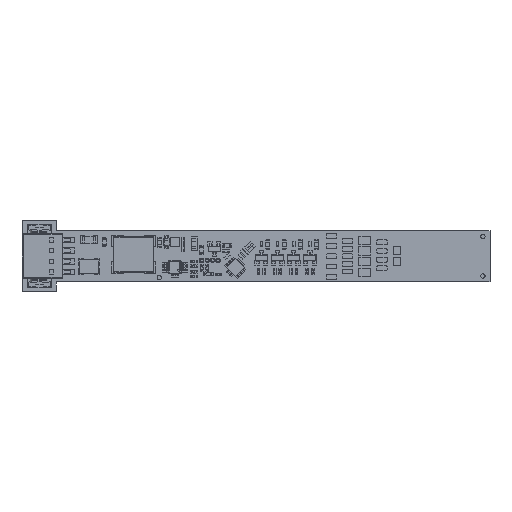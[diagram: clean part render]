
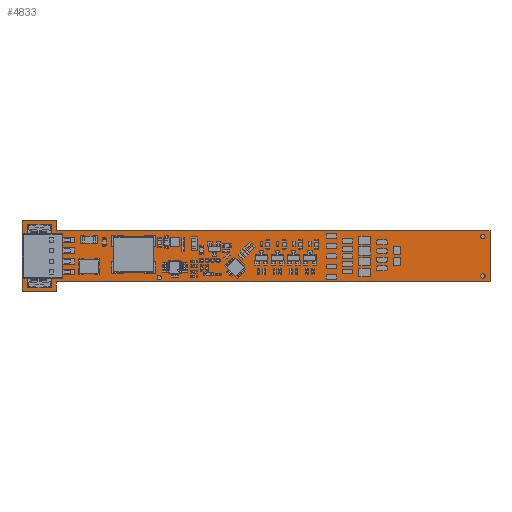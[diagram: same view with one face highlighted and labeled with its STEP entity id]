
A CAD part, top view. The second image highlights one B-rep face of the part: STEP entity #4833.
In plain terms, the highlighted planar face has unit normal (0, 0, 1).
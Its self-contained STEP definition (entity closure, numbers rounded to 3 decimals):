
#4833=ADVANCED_FACE('',(#12184,#12185,#12186,#12187,#12188),#12189,.T.);
#12184=FACE_OUTER_BOUND('',#22643,.T.);
#12185=FACE_BOUND('',#22644,.T.);
#12186=FACE_BOUND('',#22645,.T.);
#12187=FACE_BOUND('',#22646,.T.);
#12188=FACE_BOUND('',#22647,.T.);
#12189=PLANE('',#22648);
#22643=EDGE_LOOP('',(#46441,#46442,#46443,#46444,#46445,#46446,#46447,#46448));
#22644=EDGE_LOOP('',(#46449,#46450));
#22645=EDGE_LOOP('',(#46451,#46452));
#22646=EDGE_LOOP('',(#46453,#46454));
#22647=EDGE_LOOP('',(#46455,#46456));
#22648=AXIS2_PLACEMENT_3D('',#46457,#46458,#46459);
#46441=ORIENTED_EDGE('',*,*,#76294,.T.);
#46442=ORIENTED_EDGE('',*,*,#76295,.T.);
#46443=ORIENTED_EDGE('',*,*,#76296,.T.);
#46444=ORIENTED_EDGE('',*,*,#76297,.T.);
#46445=ORIENTED_EDGE('',*,*,#76298,.T.);
#46446=ORIENTED_EDGE('',*,*,#76299,.T.);
#46447=ORIENTED_EDGE('',*,*,#76300,.T.);
#46448=ORIENTED_EDGE('',*,*,#76301,.T.);
#46449=ORIENTED_EDGE('',*,*,#76263,.T.);
#46450=ORIENTED_EDGE('',*,*,#76292,.T.);
#46451=ORIENTED_EDGE('',*,*,#76268,.T.);
#46452=ORIENTED_EDGE('',*,*,#76289,.T.);
#46453=ORIENTED_EDGE('',*,*,#76273,.T.);
#46454=ORIENTED_EDGE('',*,*,#76286,.T.);
#46455=ORIENTED_EDGE('',*,*,#76278,.T.);
#46456=ORIENTED_EDGE('',*,*,#76283,.T.);
#46457=CARTESIAN_POINT('',(165.162,79.826,-0.035));
#46458=DIRECTION('',(0.0,0.0,1.0));
#46459=DIRECTION('',(1.0,0.0,0.0));
#76263=EDGE_CURVE('',#89263,#89260,#89264,.T.);
#76268=EDGE_CURVE('',#89272,#89269,#89273,.T.);
#76273=EDGE_CURVE('',#89281,#89278,#89282,.T.);
#76278=EDGE_CURVE('',#89290,#89287,#89291,.T.);
#76283=EDGE_CURVE('',#89287,#89290,#89297,.T.);
#76286=EDGE_CURVE('',#89278,#89281,#89300,.T.);
#76289=EDGE_CURVE('',#89269,#89272,#89303,.T.);
#76292=EDGE_CURVE('',#89260,#89263,#89306,.T.);
#76294=EDGE_CURVE('',#89308,#89309,#89310,.T.);
#76295=EDGE_CURVE('',#89309,#89311,#89312,.T.);
#76296=EDGE_CURVE('',#89311,#89313,#89314,.T.);
#76297=EDGE_CURVE('',#89313,#89315,#89316,.T.);
#76298=EDGE_CURVE('',#89315,#89317,#89318,.T.);
#76299=EDGE_CURVE('',#89317,#89319,#89320,.T.);
#76300=EDGE_CURVE('',#89319,#89321,#89322,.T.);
#76301=EDGE_CURVE('',#89321,#89308,#89323,.T.);
#89260=VERTEX_POINT('',#106440);
#89263=VERTEX_POINT('',#106444);
#89264=CIRCLE('',#106445,0.356);
#89269=VERTEX_POINT('',#106451);
#89272=VERTEX_POINT('',#106455);
#89273=CIRCLE('',#106456,0.356);
#89278=VERTEX_POINT('',#106462);
#89281=VERTEX_POINT('',#106466);
#89282=CIRCLE('',#106467,0.356);
#89287=VERTEX_POINT('',#106473);
#89290=VERTEX_POINT('',#106477);
#89291=CIRCLE('',#106478,0.356);
#89297=CIRCLE('',#106485,0.356);
#89300=CIRCLE('',#106488,0.356);
#89303=CIRCLE('',#106491,0.356);
#89306=CIRCLE('',#106494,0.356);
#89308=VERTEX_POINT('',#106496);
#89309=VERTEX_POINT('',#106497);
#89310=LINE('',#106498,#106499);
#89311=VERTEX_POINT('',#106500);
#89312=LINE('',#106501,#106502);
#89313=VERTEX_POINT('',#106503);
#89314=LINE('',#106504,#106505);
#89315=VERTEX_POINT('',#106506);
#89316=LINE('',#106507,#106508);
#89317=VERTEX_POINT('',#106509);
#89318=LINE('',#106510,#106511);
#89319=VERTEX_POINT('',#106512);
#89320=LINE('',#106513,#106514);
#89321=VERTEX_POINT('',#106515);
#89322=LINE('',#106516,#106517);
#89323=LINE('',#106518,#106519);
#106440=CARTESIAN_POINT('',(154.273,78.518,-0.035));
#106444=CARTESIAN_POINT('',(154.273,79.23,-0.035));
#106445=AXIS2_PLACEMENT_3D('',#132634,#132635,#132636);
#106451=CARTESIAN_POINT('',(155.543,79.23,-0.035));
#106455=CARTESIAN_POINT('',(155.543,78.518,-0.035));
#106456=AXIS2_PLACEMENT_3D('',#132642,#132643,#132644);
#106462=CARTESIAN_POINT('',(156.813,78.518,-0.035));
#106466=CARTESIAN_POINT('',(156.813,79.23,-0.035));
#106467=AXIS2_PLACEMENT_3D('',#132650,#132651,#132652);
#106473=CARTESIAN_POINT('',(158.083,79.23,-0.035));
#106477=CARTESIAN_POINT('',(158.083,78.518,-0.035));
#106478=AXIS2_PLACEMENT_3D('',#132658,#132659,#132660);
#106485=AXIS2_PLACEMENT_3D('',#132668,#132669,#132670);
#106488=AXIS2_PLACEMENT_3D('',#132674,#132675,#132676);
#106491=AXIS2_PLACEMENT_3D('',#132680,#132681,#132682);
#106494=AXIS2_PLACEMENT_3D('',#132686,#132687,#132688);
#106496=CARTESIAN_POINT('',(120.015,73.81,-0.035));
#106497=CARTESIAN_POINT('',(222.015,73.81,-0.035));
#106498=CARTESIAN_POINT('',(171.015,73.81,-0.035));
#106499=VECTOR('',#132689,1.0);
#106500=CARTESIAN_POINT('',(222.015,85.81,-0.035));
#106501=CARTESIAN_POINT('',(222.015,79.81,-0.035));
#106502=VECTOR('',#132690,1.0);
#106503=CARTESIAN_POINT('',(120.015,85.81,-0.035));
#106504=CARTESIAN_POINT('',(171.015,85.81,-0.035));
#106505=VECTOR('',#132691,1.0);
#106506=CARTESIAN_POINT('',(120.015,88.19,-0.035));
#106507=CARTESIAN_POINT('',(120.015,87.0,-0.035));
#106508=VECTOR('',#132692,1.0);
#106509=CARTESIAN_POINT('',(112.015,88.19,-0.035));
#106510=CARTESIAN_POINT('',(116.015,88.19,-0.035));
#106511=VECTOR('',#132693,1.0);
#106512=CARTESIAN_POINT('',(112.015,71.59,-0.035));
#106513=CARTESIAN_POINT('',(112.015,79.89,-0.035));
#106514=VECTOR('',#132694,1.0);
#106515=CARTESIAN_POINT('',(120.015,71.59,-0.035));
#106516=CARTESIAN_POINT('',(116.015,71.59,-0.035));
#106517=VECTOR('',#132695,1.0);
#106518=CARTESIAN_POINT('',(120.015,72.7,-0.035));
#106519=VECTOR('',#132696,1.0);
#132634=CARTESIAN_POINT('',(154.273,78.874,-0.035));
#132635=DIRECTION('',(-0.0,0.0,-1.0));
#132636=DIRECTION('',(0.,-1.0,0.0));
#132642=CARTESIAN_POINT('',(155.543,78.874,-0.035));
#132643=DIRECTION('',(0.0,0.0,-1.0));
#132644=DIRECTION('',(0.,1.0,0.0));
#132650=CARTESIAN_POINT('',(156.813,78.874,-0.035));
#132651=DIRECTION('',(-0.0,0.0,-1.0));
#132652=DIRECTION('',(0.,-1.0,0.0));
#132658=CARTESIAN_POINT('',(158.083,78.874,-0.035));
#132659=DIRECTION('',(0.0,0.0,-1.0));
#132660=DIRECTION('',(0.,1.0,0.0));
#132668=CARTESIAN_POINT('',(158.083,78.874,-0.035));
#132669=DIRECTION('',(0.0,0.0,-1.0));
#132670=DIRECTION('',(0.,1.0,0.0));
#132674=CARTESIAN_POINT('',(156.813,78.874,-0.035));
#132675=DIRECTION('',(-0.0,0.0,-1.0));
#132676=DIRECTION('',(0.,-1.0,0.0));
#132680=CARTESIAN_POINT('',(155.543,78.874,-0.035));
#132681=DIRECTION('',(0.0,0.0,-1.0));
#132682=DIRECTION('',(0.,1.0,0.0));
#132686=CARTESIAN_POINT('',(154.273,78.874,-0.035));
#132687=DIRECTION('',(-0.0,0.0,-1.0));
#132688=DIRECTION('',(0.,-1.0,0.0));
#132689=DIRECTION('',(1.0,0.0,0.0));
#132690=DIRECTION('',(0.0,1.0,0.0));
#132691=DIRECTION('',(-1.0,0.0,0.0));
#132692=DIRECTION('',(0.0,1.0,0.0));
#132693=DIRECTION('',(-1.0,0.0,0.0));
#132694=DIRECTION('',(0.0,-1.0,0.0));
#132695=DIRECTION('',(1.0,0.0,0.0));
#132696=DIRECTION('',(0.0,1.0,0.0));
